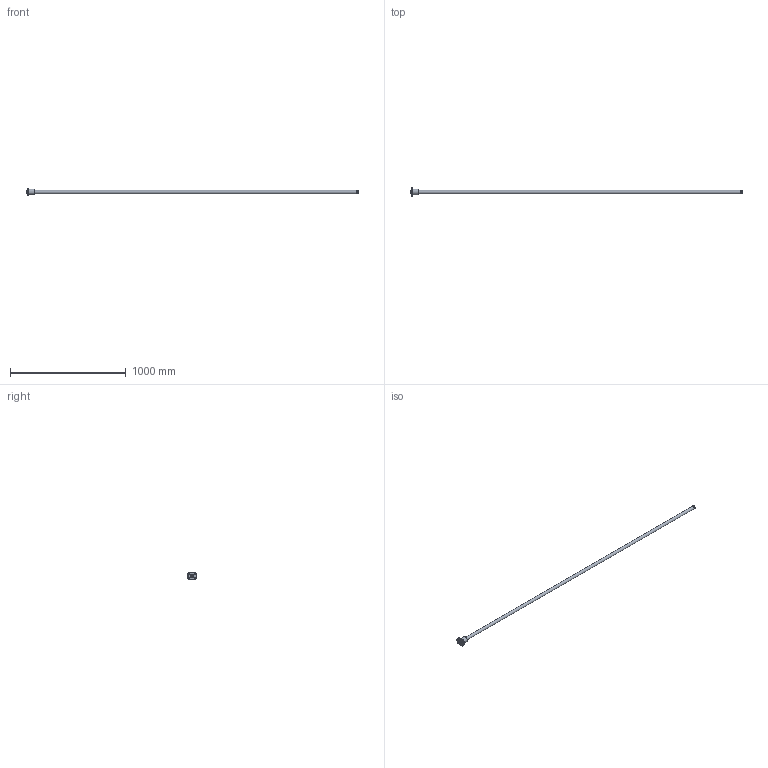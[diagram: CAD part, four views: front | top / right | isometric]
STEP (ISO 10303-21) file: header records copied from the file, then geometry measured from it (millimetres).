
FILE_DESCRIPTION( ( 'STEP AP203' ), ' ' );
FILE_NAME( 'p:/temp/worker_50/3228_2824/app_60_12018011810505408542717818fa3fd_000000_00_00_000000/format_0/BTK 2806V-5.3ZZ+2873LC7T_27880.stp', '2018-01-18T09:50:54', ( '' ), ( '' ), ' ', 'PARTsolutions', ' ' );
FILE_SCHEMA( ( 'CONFIG_CONTROL_DESIGN' ) );
Length unit declared in the file: millimetre
Products named in the file (3): BTK 2806V-5.3ZZ+2873LC7T_27880; _BTK 2806V-5.32788 Shaft; _BTK 2806V-5.3ZZ Nut
Assembly tree (2 placements, depth 2):
  BTK 2806V-5.3ZZ+2873LC7T_27880
    _BTK 2806V-5.32788 Shaft
    _BTK 2806V-5.3ZZ Nut
Bounding box: 2873 x 80 x 60 mm (x, y, z)
Volume: 1877760.9 mm3; surface area: 280694.7 mm2
Topology: 2 solids, 2 shells, 39 faces, 84 edges, 55 vertices
Faces by surface type: cylinder 17, plane 14, cone 8
Full cylindrical faces by diameter (mm): 4.917 x1, 6.6 x4, 22.4 x2, 28 x4, 33.6 x2, 45 x1, 50 x1
Entity records: 1202 total; most frequent: CARTESIAN_POINT 303, DIRECTION 174, ORIENTED_EDGE 122, AXIS2_PLACEMENT_3D 82, EDGE_LOOP 76, EDGE_CURVE 61, FACE_OUTER_BOUND 54, VERTEX_POINT 51
